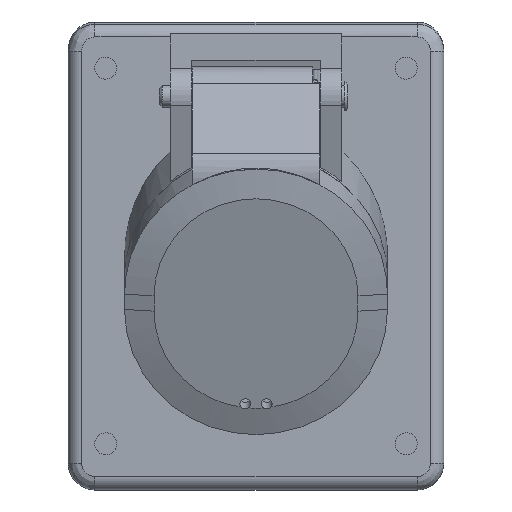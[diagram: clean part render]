
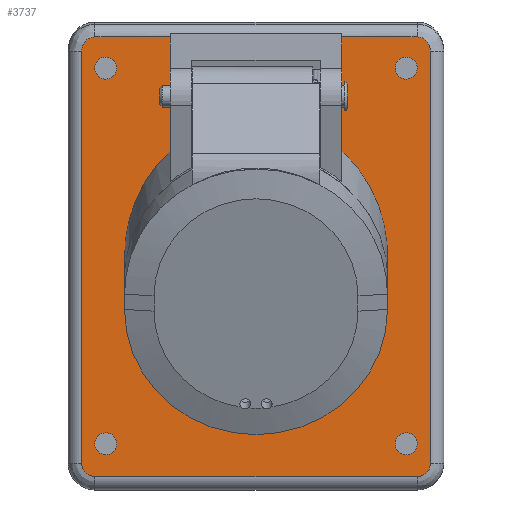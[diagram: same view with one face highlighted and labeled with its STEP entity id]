
A CAD part, top view. The second image highlights one B-rep face of the part: STEP entity #3737.
In plain terms, the highlighted planar face has unit normal (0, 0, 1).
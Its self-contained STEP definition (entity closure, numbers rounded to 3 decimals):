
#2889=FACE_BOUND('',#4488,.T.);
#2890=FACE_BOUND('',#4489,.T.);
#2891=FACE_BOUND('',#4490,.T.);
#2892=FACE_BOUND('',#4491,.T.);
#2893=FACE_BOUND('',#4492,.T.);
#3737=ADVANCED_FACE('',(#2889,#2890,#2891,#2892,#2893),#4022,.F.);
#4022=PLANE('',#10616);
#4488=EDGE_LOOP('',(#5635));
#4489=EDGE_LOOP('',(#5636));
#4490=EDGE_LOOP('',(#5637));
#4491=EDGE_LOOP('',(#5638));
#4492=EDGE_LOOP('',(#5639,#5640,#5641,#5642,#5643,#5644,#5645,#5646,#5647,
#5648,#5649,#5650));
#5044=ELLIPSE('',#10607,2.05,2.05);
#5045=ELLIPSE('',#10608,2.05,2.05);
#5046=ELLIPSE('',#10609,2.05,2.05);
#5047=ELLIPSE('',#10610,2.05,2.05);
#5048=ELLIPSE('',#10611,25.761,24.5);
#5049=ELLIPSE('',#10612,2.629,2.5);
#5050=ELLIPSE('',#10613,2.5,2.5);
#5051=ELLIPSE('',#10614,2.5,2.5);
#5052=ELLIPSE('',#10615,2.629,2.5);
#5635=ORIENTED_EDGE('',*,*,#8341,.F.);
#5636=ORIENTED_EDGE('',*,*,#8342,.F.);
#5637=ORIENTED_EDGE('',*,*,#8343,.F.);
#5638=ORIENTED_EDGE('',*,*,#8344,.F.);
#5639=ORIENTED_EDGE('',*,*,#8320,.T.);
#5640=ORIENTED_EDGE('',*,*,#8345,.F.);
#5641=ORIENTED_EDGE('',*,*,#8346,.F.);
#5642=ORIENTED_EDGE('',*,*,#8347,.T.);
#5643=ORIENTED_EDGE('',*,*,#8348,.T.);
#5644=ORIENTED_EDGE('',*,*,#8349,.T.);
#5645=ORIENTED_EDGE('',*,*,#8350,.T.);
#5646=ORIENTED_EDGE('',*,*,#8351,.T.);
#5647=ORIENTED_EDGE('',*,*,#8352,.T.);
#5648=ORIENTED_EDGE('',*,*,#8353,.T.);
#5649=ORIENTED_EDGE('',*,*,#8354,.T.);
#5650=ORIENTED_EDGE('',*,*,#8355,.T.);
#7174=VERTEX_POINT('',#15254);
#7175=VERTEX_POINT('',#15255);
#7193=VERTEX_POINT('',#15297);
#7194=VERTEX_POINT('',#15299);
#7195=VERTEX_POINT('',#15301);
#7196=VERTEX_POINT('',#15303);
#7197=VERTEX_POINT('',#15305);
#7198=VERTEX_POINT('',#15307);
#7199=VERTEX_POINT('',#15309);
#7200=VERTEX_POINT('',#15311);
#7201=VERTEX_POINT('',#15313);
#7202=VERTEX_POINT('',#15315);
#7203=VERTEX_POINT('',#15317);
#7204=VERTEX_POINT('',#15319);
#7205=VERTEX_POINT('',#15321);
#7206=VERTEX_POINT('',#15323);
#8320=EDGE_CURVE('',#7174,#7175,#9406,.T.);
#8341=EDGE_CURVE('',#7193,#7193,#5044,.T.);
#8342=EDGE_CURVE('',#7194,#7194,#5045,.T.);
#8343=EDGE_CURVE('',#7195,#7195,#5046,.T.);
#8344=EDGE_CURVE('',#7196,#7196,#5047,.T.);
#8345=EDGE_CURVE('',#7197,#7175,#5048,.T.);
#8346=EDGE_CURVE('',#7198,#7197,#9417,.T.);
#8347=EDGE_CURVE('',#7198,#7199,#9418,.T.);
#8348=EDGE_CURVE('',#7199,#7200,#5049,.T.);
#8349=EDGE_CURVE('',#7200,#7201,#9419,.T.);
#8350=EDGE_CURVE('',#7201,#7202,#5050,.T.);
#8351=EDGE_CURVE('',#7202,#7203,#9420,.T.);
#8352=EDGE_CURVE('',#7203,#7204,#5051,.T.);
#8353=EDGE_CURVE('',#7204,#7205,#9421,.T.);
#8354=EDGE_CURVE('',#7205,#7206,#5052,.T.);
#8355=EDGE_CURVE('',#7206,#7174,#9422,.T.);
#9406=LINE('',#15253,#9949);
#9417=LINE('',#15306,#9960);
#9418=LINE('',#15308,#9961);
#9419=LINE('',#15312,#9962);
#9420=LINE('',#15316,#9963);
#9421=LINE('',#15320,#9964);
#9422=LINE('',#15324,#9965);
#9949=VECTOR('',#11959,1.);
#9960=VECTOR('',#12006,1.);
#9961=VECTOR('',#12007,1.);
#9962=VECTOR('',#12010,1.);
#9963=VECTOR('',#12013,1.);
#9964=VECTOR('',#12016,1.);
#9965=VECTOR('',#12019,1.);
#10607=AXIS2_PLACEMENT_3D('',#15296,#11996,#11997);
#10608=AXIS2_PLACEMENT_3D('',#15298,#11998,#11999);
#10609=AXIS2_PLACEMENT_3D('',#15300,#12000,#12001);
#10610=AXIS2_PLACEMENT_3D('',#15302,#12002,#12003);
#10611=AXIS2_PLACEMENT_3D('',#15304,#12004,#12005);
#10612=AXIS2_PLACEMENT_3D('',#15310,#12008,#12009);
#10613=AXIS2_PLACEMENT_3D('',#15314,#12011,#12012);
#10614=AXIS2_PLACEMENT_3D('',#15318,#12014,#12015);
#10615=AXIS2_PLACEMENT_3D('',#15322,#12017,#12018);
#10616=AXIS2_PLACEMENT_3D('',#15325,#12020,#12021);
#11959=DIRECTION('',(0.,-1.,0.));
#11996=DIRECTION('',(0.,0.,1.));
#11997=DIRECTION('',(0.,-1.,0.));
#11998=DIRECTION('',(0.,0.,1.));
#11999=DIRECTION('',(0.,-1.,0.));
#12000=DIRECTION('',(0.,0.,1.));
#12001=DIRECTION('',(0.,-1.,0.));
#12002=DIRECTION('',(0.,0.,1.));
#12003=DIRECTION('',(0.,-1.,0.));
#12004=DIRECTION('',(0.,0.,1.));
#12005=DIRECTION('',(0.,-1.,0.));
#12006=DIRECTION('',(0.,-1.,0.));
#12007=DIRECTION('',(-1.,0.,0.));
#12008=DIRECTION('',(0.,0.,1.));
#12009=DIRECTION('',(0.,-1.,0.));
#12010=DIRECTION('',(0.,-1.,0.));
#12011=DIRECTION('',(0.,0.,1.));
#12012=DIRECTION('',(0.,-1.,0.));
#12013=DIRECTION('',(1.,0.,0.));
#12014=DIRECTION('',(0.,0.,1.));
#12015=DIRECTION('',(0.,1.,0.));
#12016=DIRECTION('',(0.,1.,0.));
#12017=DIRECTION('',(0.,0.,1.));
#12018=DIRECTION('',(0.,1.,0.));
#12019=DIRECTION('',(-1.,0.,0.));
#12020=DIRECTION('',(0.,0.,-1.));
#12021=DIRECTION('',(0.,1.,0.));
#15253=CARTESIAN_POINT('',(15.999,39.699,23.425));
#15254=CARTESIAN_POINT('',(15.999,37.883,23.425));
#15255=CARTESIAN_POINT('',(15.999,16.583,23.425));
#15296=CARTESIAN_POINT('',(27.999,32.074,23.425));
#15297=CARTESIAN_POINT('',(27.999,30.024,23.425));
#15298=CARTESIAN_POINT('',(27.999,-37.926,23.425));
#15299=CARTESIAN_POINT('',(27.999,-39.976,23.425));
#15300=CARTESIAN_POINT('',(-28.001,32.074,23.425));
#15301=CARTESIAN_POINT('',(-28.001,30.024,23.425));
#15302=CARTESIAN_POINT('',(-28.001,-37.926,23.425));
#15303=CARTESIAN_POINT('',(-28.001,-39.976,23.425));
#15304=CARTESIAN_POINT('',(-0.001,-2.926,23.425));
#15305=CARTESIAN_POINT('',(-16.001,16.583,23.425));
#15306=CARTESIAN_POINT('',(-16.001,39.699,23.425));
#15307=CARTESIAN_POINT('',(-16.001,37.883,23.425));
#15308=CARTESIAN_POINT('',(34.999,37.883,23.425));
#15309=CARTESIAN_POINT('',(-30.001,37.883,23.425));
#15310=CARTESIAN_POINT('',(-30.001,35.254,23.425));
#15311=CARTESIAN_POINT('',(-32.501,35.254,23.425));
#15312=CARTESIAN_POINT('',(-32.501,39.699,23.425));
#15313=CARTESIAN_POINT('',(-32.501,-41.525,23.425));
#15314=CARTESIAN_POINT('',(-30.001,-41.525,23.425));
#15315=CARTESIAN_POINT('',(-30.001,-44.025,23.424));
#15316=CARTESIAN_POINT('',(34.999,-44.025,23.424));
#15317=CARTESIAN_POINT('',(29.999,-44.025,23.424));
#15318=CARTESIAN_POINT('',(29.999,-41.525,23.425));
#15319=CARTESIAN_POINT('',(32.499,-41.525,23.425));
#15320=CARTESIAN_POINT('',(32.499,34.442,23.425));
#15321=CARTESIAN_POINT('',(32.499,35.254,23.425));
#15322=CARTESIAN_POINT('',(29.999,35.254,23.425));
#15323=CARTESIAN_POINT('',(29.999,37.883,23.425));
#15324=CARTESIAN_POINT('',(34.999,37.883,23.425));
#15325=CARTESIAN_POINT('',(34.999,39.699,23.425));
